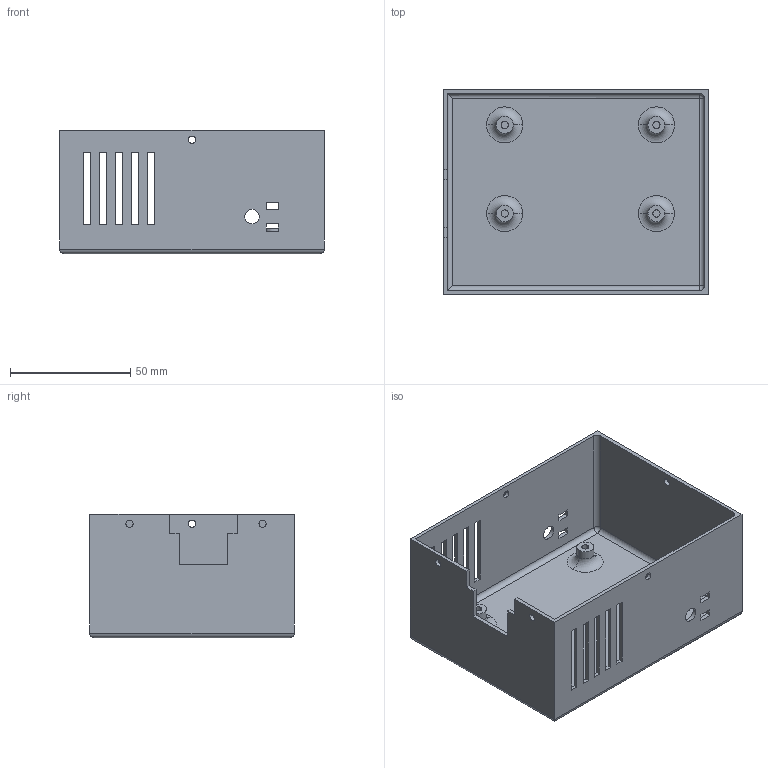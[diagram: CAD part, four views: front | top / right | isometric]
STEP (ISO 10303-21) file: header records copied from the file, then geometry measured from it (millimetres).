
FILE_DESCRIPTION(('CATIA V5 STEP Exchange'),'2;1');
FILE_NAME('D:\3D Bussiness\004 Personal Designs\009 DC Motor Controller BOX\Lower Part.stp','2019-01-06T15:56:25+00:00',('none'),('none'),'Version 5-6 Release 2013','CATIA V5 STEP AP203','none');
FILE_SCHEMA(('CONFIG_CONTROL_DESIGN'));
Length unit declared in the file: millimetre
Products named in the file (1): Lower Part
Bounding box: 110 x 85 x 51.4 mm (x, y, z)
Volume: 54953.5 mm3; surface area: 55450.9 mm2
Topology: 1 solids, 1 shells, 132 faces, 348 edges, 224 vertices
Faces by surface type: plane 82, cylinder 40, torus 8, sphere 2
Entity records: 3787 total; most frequent: CARTESIAN_POINT 698, ORIENTED_EDGE 692, DIRECTION 468, EDGE_CURVE 346, VECTOR 246, LINE 246, VERTEX_POINT 224, EDGE_LOOP 182
